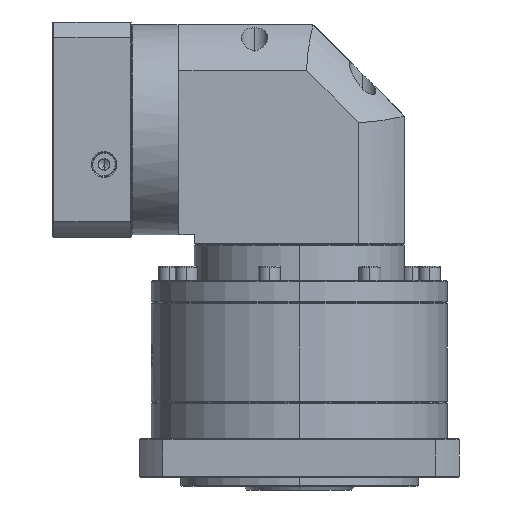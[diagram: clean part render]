
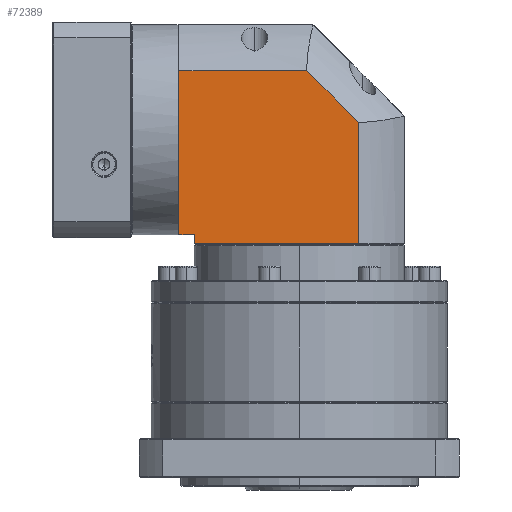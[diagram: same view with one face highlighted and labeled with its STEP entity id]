
A CAD part, left-side view. The second image highlights one B-rep face of the part: STEP entity #72389.
In plain terms, the highlighted planar face has unit normal (-1, 0, 0).
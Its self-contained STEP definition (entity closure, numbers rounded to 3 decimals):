
#131 = CARTESIAN_POINT ( 'NONE',  ( -157.492, 186.833, 20.243 ) ) ;
#5449 = VECTOR ( 'NONE', #125252, 1000. ) ;
#7763 = VERTEX_POINT ( 'NONE', #35353 ) ;
#8302 = EDGE_CURVE ( 'NONE', #50157, #77902, #127045, .T. ) ;
#14643 = VECTOR ( 'NONE', #86281, 1000. ) ;
#18953 = LINE ( 'NONE', #105561, #129672 ) ;
#20193 = ORIENTED_EDGE ( 'NONE', *, *, #34066, .F. ) ;
#20864 = VECTOR ( 'NONE', #24730, 1000. ) ;
#23835 = DIRECTION ( 'NONE',  ( 0., 0., -1. ) ) ;
#24730 = DIRECTION ( 'NONE',  ( 0., -1., 0. ) ) ;
#26250 = VERTEX_POINT ( 'NONE', #39779 ) ;
#26833 = VECTOR ( 'NONE', #46514, 1000. ) ;
#29077 = VECTOR ( 'NONE', #23835, 1000. ) ;
#29269 = ORIENTED_EDGE ( 'NONE', *, *, #81244, .T. ) ;
#31760 = DIRECTION ( 'NONE',  ( 0., 0., -1. ) ) ;
#31936 = AXIS2_PLACEMENT_3D ( 'NONE', #121063, #121537, #57778 ) ;
#34066 = EDGE_CURVE ( 'NONE', #92548, #35691, #101738, .T. ) ;
#34515 = CARTESIAN_POINT ( 'NONE',  ( -157.492, 116.872, 20.243 ) ) ;
#35353 = CARTESIAN_POINT ( 'NONE',  ( -157.492, 186.833, -69.657 ) ) ;
#35691 = VERTEX_POINT ( 'NONE', #34515 ) ;
#37169 = DIRECTION ( 'NONE',  ( 0., -1., 0. ) ) ;
#38770 = ORIENTED_EDGE ( 'NONE', *, *, #45362, .F. ) ;
#38859 = EDGE_CURVE ( 'NONE', #48846, #50157, #57139, .T. ) ;
#39779 = CARTESIAN_POINT ( 'NONE',  ( -157.492, 178.433, -69.657 ) ) ;
#43922 = ORIENTED_EDGE ( 'NONE', *, *, #38859, .F. ) ;
#45362 = EDGE_CURVE ( 'NONE', #7763, #92548, #84580, .T. ) ;
#46514 = DIRECTION ( 'NONE',  ( 0., -0.707, -0.707 ) ) ;
#46731 = PLANE ( 'NONE',  #31936 ) ;
#48846 = VERTEX_POINT ( 'NONE', #127590 ) ;
#50157 = VERTEX_POINT ( 'NONE', #70187 ) ;
#56758 = ORIENTED_EDGE ( 'NONE', *, *, #136835, .F. ) ;
#57139 = LINE ( 'NONE', #88355, #29077 ) ;
#57778 = DIRECTION ( 'NONE',  ( 0., -1., 0. ) ) ;
#61010 = CARTESIAN_POINT ( 'NONE',  ( -157.492, 186.833, -81.157 ) ) ;
#67693 = CARTESIAN_POINT ( 'NONE',  ( -157.492, 116.872, 20.243 ) ) ;
#68396 = CARTESIAN_POINT ( 'NONE',  ( -157.492, 63.433, -74.657 ) ) ;
#68615 = LINE ( 'NONE', #131829, #20864 ) ;
#70187 = CARTESIAN_POINT ( 'NONE',  ( -157.492, 88.534, -74.657 ) ) ;
#72389 = ADVANCED_FACE ( 'NONE', ( #106076 ), #46731, .F. ) ;
#77902 = VERTEX_POINT ( 'NONE', #105590 ) ;
#78621 = CARTESIAN_POINT ( 'NONE',  ( -157.492, 63.433, 20.243 ) ) ;
#80266 = VECTOR ( 'NONE', #37169, 1000. ) ;
#81244 = EDGE_CURVE ( 'NONE', #7763, #26250, #68615, .T. ) ;
#84580 = LINE ( 'NONE', #61010, #5449 ) ;
#86281 = DIRECTION ( 'NONE',  ( 0., 1., 0. ) ) ;
#88355 = CARTESIAN_POINT ( 'NONE',  ( -157.492, 88.534, -81.157 ) ) ;
#89549 = ORIENTED_EDGE ( 'NONE', *, *, #8302, .F. ) ;
#90523 = EDGE_CURVE ( 'NONE', #26250, #77902, #18953, .T. ) ;
#92548 = VERTEX_POINT ( 'NONE', #131 ) ;
#101738 = LINE ( 'NONE', #78621, #80266 ) ;
#103561 = ORIENTED_EDGE ( 'NONE', *, *, #90523, .T. ) ;
#105561 = CARTESIAN_POINT ( 'NONE',  ( -157.492, 178.433, 45.343 ) ) ;
#105590 = CARTESIAN_POINT ( 'NONE',  ( -157.492, 178.433, -74.657 ) ) ;
#106076 = FACE_OUTER_BOUND ( 'NONE', #107982, .T. ) ;
#107982 = EDGE_LOOP ( 'NONE', ( #43922, #56758, #20193, #38770, #29269, #103561, #89549 ) ) ;
#121063 = CARTESIAN_POINT ( 'NONE',  ( -157.492, 63.433, -81.157 ) ) ;
#121537 = DIRECTION ( 'NONE',  ( 1., 0., 0. ) ) ;
#125252 = DIRECTION ( 'NONE',  ( 0., 0., 1. ) ) ;
#127045 = LINE ( 'NONE', #68396, #14643 ) ;
#127590 = CARTESIAN_POINT ( 'NONE',  ( -157.492, 88.534, -8.095 ) ) ;
#129672 = VECTOR ( 'NONE', #31760, 1000. ) ;
#131829 = CARTESIAN_POINT ( 'NONE',  ( -157.492, 178.433, -69.657 ) ) ;
#132502 = LINE ( 'NONE', #67693, #26833 ) ;
#136835 = EDGE_CURVE ( 'NONE', #35691, #48846, #132502, .T. ) ;
